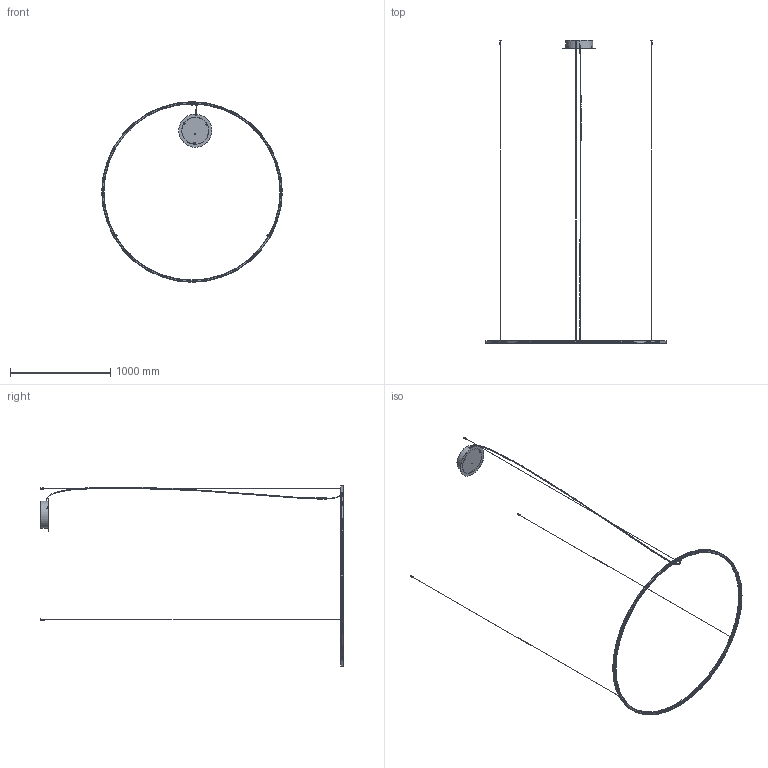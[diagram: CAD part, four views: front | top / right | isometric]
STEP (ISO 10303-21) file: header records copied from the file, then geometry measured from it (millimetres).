
FILE_DESCRIPTION (( 'STEP AP203' ), '1' );
FILE_NAME ('SPULA180XXXXXXX.STEP', '2025-11-17T15:13:02', ( '' ), ( '' ), 'SwSTEP 2.0', 'SolidWorks 2024', '' );
FILE_SCHEMA (( 'CONFIG_CONTROL_DESIGN' ));
Length unit declared in the file: millimetre
Products named in the file (20): WSCM2A0026-0248-00; WSCP2F0011-0403-00; WSCM2C0046-0100-00; serrated lock washer 1_din_MC-R002-EX-FE-00; WSCM2C0028-0100-00; WSASS-000000018-32-01; WSCM1I0007-0242-00; WSCM2D0032-0700-00; TANG YAO-7727-P415 + RIV TESSILE 33-PER ANELLI-PER ROSONE; WSCA01193000B3028A; WSCM1I0006-0242-00; WSCM2F0010-0128-01; WSCM2A0022-0700-00; WSCM1I0008-0242-00; WSCM2J0005-0132-00; ASSIEME ANELLO 180 MODULI LED; ASSIEME GRIPPER M10X1 CROMO; WSCEE0000000000003; pan head cross recess screw_iso_MC-V001-CC-FE-10; SPULA180XXXXXXX
Assembly tree (36 placements, depth 4):
  SPULA180XXXXXXX
    ASSIEME ANELLO 180 MODULI LED
      WSCM2D0032-0700-00
      WSCP2F0011-0403-00  x6
      WSCM2A0022-0700-00
    WSCM2A0026-0248-00  x3
    WSCA01193000B3028A  x3
    TANG YAO-7727-P415 + RIV TESSILE 33-PER ANELLI-PER ROSONE
    ASSIEME GRIPPER M10X1 CROMO  x3
      WSCM1I0006-0242-00
      WSCM1I0007-0242-00
      WSCM1I0008-0242-00
    WSASS-000000018-32-01
      WSCM2J0005-0132-00
        WSCM2C0046-0100-00
        WSCM2C0028-0100-00  x3
        WSCEE0000000000003
      pan head cross recess screw_iso_MC-V001-CC-FE-10  x3
      serrated lock washer 1_din_MC-R002-EX-FE-00  x3
      WSCM2F0010-0128-01
Bounding box: 1800 x 3018.73 x 1800 mm (x, y, z)
Volume: 1985109.6 mm3; surface area: 1616415.2 mm2
Topology: 36 solids, 36 shells, 1422 faces, 3646 edges, 2285 vertices
Faces by surface type: plane 607, cylinder 453, cone 162, bspline 98, torus 90, sphere 12
Entity records: 35458 total; most frequent: CARTESIAN_POINT 18045, ORIENTED_EDGE 3156, DIRECTION 3068, EDGE_CURVE 1578, AXIS2_PLACEMENT_3D 1210, VERTEX_POINT 1000, EDGE_LOOP 718, LINE 648
